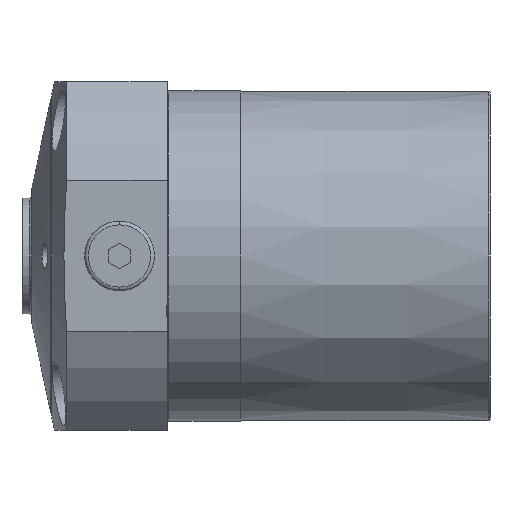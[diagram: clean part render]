
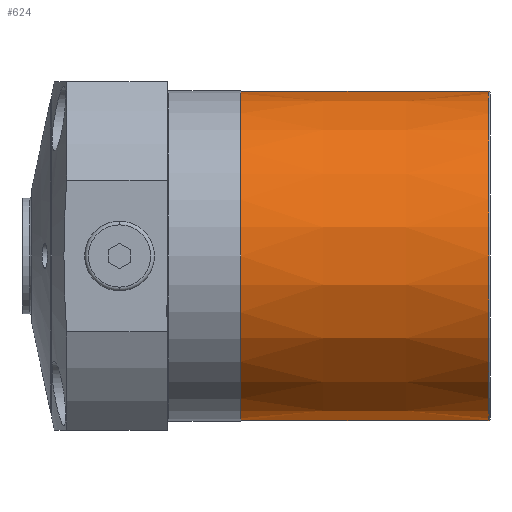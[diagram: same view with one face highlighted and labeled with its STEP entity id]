
A CAD part, left-side view. The second image highlights one B-rep face of the part: STEP entity #624.
In plain terms, the highlighted conical face has half-angle 0 degrees and reference radius 44.9 mm.
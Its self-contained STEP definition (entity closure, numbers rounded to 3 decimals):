
#624=ADVANCED_FACE('',(#873),#733,.T.);
#733=CONICAL_SURFACE('',#3810,44.9,0.);
#873=FACE_OUTER_BOUND('',#1102,.T.);
#1102=EDGE_LOOP('',(#2145,#2146,#2147,#2148));
#1309=LINE('',#5864,#1468);
#1310=LINE('',#5868,#1469);
#1468=VECTOR('',#4557,1.);
#1469=VECTOR('',#4560,1.);
#2145=ORIENTED_EDGE('',*,*,#2992,.T.);
#2146=ORIENTED_EDGE('',*,*,#3112,.F.);
#2147=ORIENTED_EDGE('',*,*,#2994,.F.);
#2148=ORIENTED_EDGE('',*,*,#3111,.T.);
#2637=VERTEX_POINT('',#5862);
#2638=VERTEX_POINT('',#5863);
#2639=VERTEX_POINT('',#5865);
#2640=VERTEX_POINT('',#5867);
#2992=EDGE_CURVE('',#2639,#2637,#1309,.T.);
#2994=EDGE_CURVE('',#2640,#2638,#1310,.T.);
#3111=EDGE_CURVE('',#2640,#2639,#3389,.T.);
#3112=EDGE_CURVE('',#2638,#2637,#3390,.T.);
#3389=CIRCLE('',#3807,44.9);
#3390=CIRCLE('',#3809,44.9);
#3807=AXIS2_PLACEMENT_3D('',#6141,#4816,#4817);
#3809=AXIS2_PLACEMENT_3D('',#6143,#4820,#4821);
#3810=AXIS2_PLACEMENT_3D('',#6144,#4822,#4823);
#4557=DIRECTION('',(0.,1.,0.));
#4560=DIRECTION('',(0.,1.,0.));
#4816=DIRECTION('',(0.,1.,0.));
#4817=DIRECTION('',(0.,0.,1.));
#4820=DIRECTION('',(0.,1.,0.));
#4821=DIRECTION('',(0.,0.,1.));
#4822=DIRECTION('',(0.,-1.,0.));
#4823=DIRECTION('',(0.,0.,1.));
#5862=CARTESIAN_POINT('',(0.,91.05,44.9));
#5863=CARTESIAN_POINT('',(0.,91.05,-44.9));
#5864=CARTESIAN_POINT('',(0.,91.05,44.9));
#5865=CARTESIAN_POINT('',(0.,23.45,44.9));
#5867=CARTESIAN_POINT('',(0.,23.45,-44.9));
#5868=CARTESIAN_POINT('',(0.,91.05,-44.9));
#6141=CARTESIAN_POINT('',(0.,23.45,0.));
#6143=CARTESIAN_POINT('',(0.,91.05,0.));
#6144=CARTESIAN_POINT('',(0.,91.05,0.));
